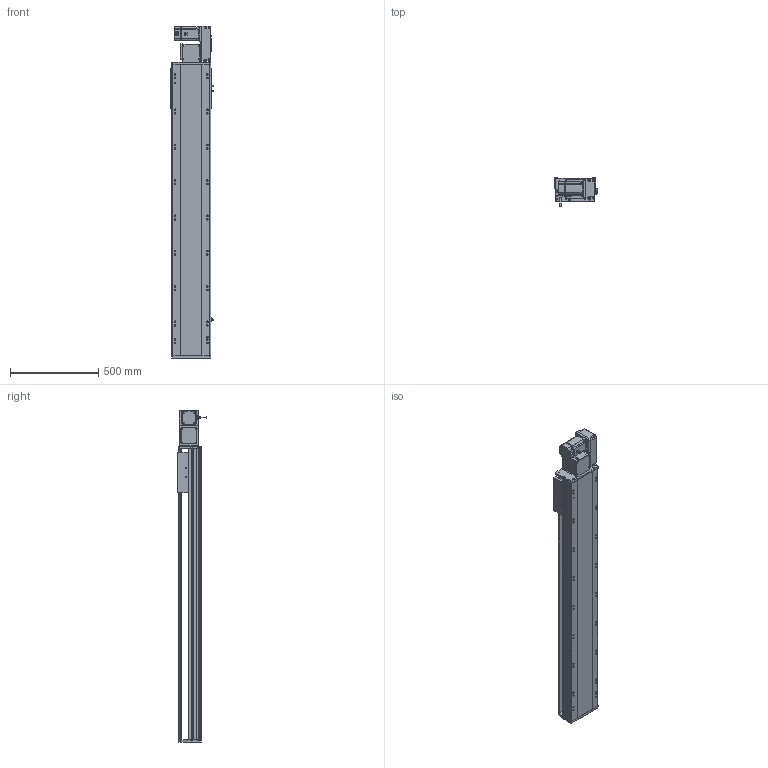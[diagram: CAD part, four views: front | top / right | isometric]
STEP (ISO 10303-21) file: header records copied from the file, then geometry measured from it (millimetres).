
FILE_DESCRIPTION (( 'STEP AP214' ), '1' );
FILE_NAME ('RTB22S-XX-1300-R-M75-C4.STEP', '2025-12-12T07:21:26', ( '' ), ( '' ), 'SwSTEP 2.0', 'SolidWorks 2018', '' );
FILE_SCHEMA (( 'AUTOMOTIVE_DESIGN' ));
Length unit declared in the file: millimetre
Products named in the file (14): RTB22S-L-011菁釱^RTB22S-XX-XX-R-M75-C4; RTH22-GY-013外置感应片^RTB22S-XX-XX-R-M75-C4; RTB22S-XX-1300-R-M75-C4; RTB22S-R-々湍釱蚾饜^RTB22S-XX-XX-R-M75-C4; RTB22S-GY-005P^RTB22S-R-々湍釱蚾饜_RTB22S-XX-XX-R-M75-C4; RTB22S-GY-014--々湍釱^RTB22S-R-々湍釱蚾饜_RTB22S-XX-XX-R-M75-C4; RTB22S-L-004賑釱^RTB22S-XX-XX-R-M75-C4; OMRON EE-SX672 传感器^RTB22S-XX-XX-R-M75-C4; RTB22S-GY-001耜裔^RTB22S-XX-XX-R-M75-C4; RTB22S-GY-007奻裔^RTB22S-XX-XX-R-M75-C4; RTB22S-GY-018P^RTB22S-R-々湍釱蚾饜_RTB22S-XX-XX-R-M75-C4; 750W萇儂^RTB22S-XX-XX-R-M75-C4; RTB22S-GY-017P^RTB22S-R-々湍釱蚾饜_RTB22S-XX-XX-R-M75-C4; RTB22S-GY-008-M75--萇儂啣^RTB22S-R-々湍釱蚾饜_RTB22S-XX-XX-R-M75-C4
Assembly tree (16 placements, depth 3):
  RTB22S-XX-1300-R-M75-C4
    RTB22S-L-011菁釱^RTB22S-XX-XX-R-M75-C4
    RTB22S-GY-001耜裔^RTB22S-XX-XX-R-M75-C4
    750W萇儂^RTB22S-XX-XX-R-M75-C4
    RTB22S-GY-007奻裔^RTB22S-XX-XX-R-M75-C4
    RTB22S-L-004賑釱^RTB22S-XX-XX-R-M75-C4
    RTH22-GY-013外置感应片^RTB22S-XX-XX-R-M75-C4
    OMRON EE-SX672 传感器^RTB22S-XX-XX-R-M75-C4  x3
    RTB22S-R-々湍釱蚾饜^RTB22S-XX-XX-R-M75-C4
      RTB22S-GY-014--々湍釱^RTB22S-R-々湍釱蚾饜_RTB22S-XX-XX-R-M75-C4
      RTB22S-GY-017P^RTB22S-R-々湍釱蚾饜_RTB22S-XX-XX-R-M75-C4  x2
      RTB22S-GY-005P^RTB22S-R-々湍釱蚾饜_RTB22S-XX-XX-R-M75-C4
      RTB22S-GY-008-M75--萇儂啣^RTB22S-R-々湍釱蚾饜_RTB22S-XX-XX-R-M75-C4
      RTB22S-GY-018P^RTB22S-R-々湍釱蚾饜_RTB22S-XX-XX-R-M75-C4
Bounding box: 238.5 x 162.7 x 1879 mm (x, y, z)
Volume: 24782881.2 mm3; surface area: 2566222.1 mm2
Topology: 15 solids, 15 shells, 2001 faces, 5436 edges, 3482 vertices
Faces by surface type: plane 917, cylinder 634, bspline 296, cone 142, sphere 8, torus 4
Entity records: 53426 total; most frequent: CARTESIAN_POINT 15320, ORIENTED_EDGE 7652, DIRECTION 7380, EDGE_CURVE 3826, AXIS2_PLACEMENT_3D 2610, VERTEX_POINT 2486, LINE 2160, VECTOR 2160
